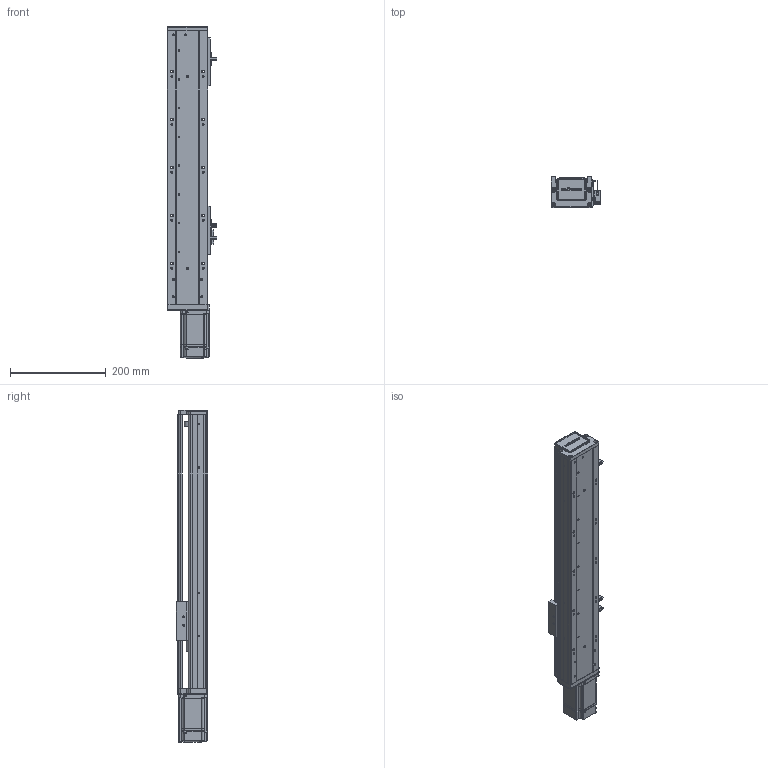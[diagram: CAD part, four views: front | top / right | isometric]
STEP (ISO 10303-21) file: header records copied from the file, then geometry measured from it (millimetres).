
FILE_DESCRIPTION (( 'STEP AP203' ), '1' );
FILE_NAME ('RY80-L1620-300-MK.SLDASM_350.step', '2021-02-20T02:33:06', ( '' ), ( '' ), 'SwSTEP 2.0', 'SolidWorks 2012', '' );
FILE_SCHEMA (( 'CONFIG_CONTROL_DESIGN' ));
Products named in the file (14): RY80-L1620-300-MK.SLDASM_350; RY80綴裔啣; RY80前盖板(100W电机 PCD46 M4); 672嫖萇羲壽假蚾釱; RY80俋离覜茼え; 滅袉蝶18-24; 覜茼ん672; 1; RY80前盖板(200W电机)M4; 滅袉蝶18-10; 侂狟200W萇儂; RY80-300-MK倰第奻裔啣_350; RY80-300-MK倰第菁釱_350; RY80臏賑輸
Assembly tree (16 placements, depth 3):
  RY80-L1620-300-MK.SLDASM_350
    RY80-300-MK倰第菁釱_350
    RY80臏賑輸
    RY80-300-MK倰第奻裔啣_350
    RY80前盖板(200W电机)M4
    侂狟200W萇儂
      1
    滅袉蝶18-10
    672嫖萇羲壽假蚾釱  x2
    覜茼ん672  x3
    RY80俋离覜茼え
    滅袉蝶18-24
    RY80綴裔啣
    RY80前盖板(100W电机 PCD46 M4)
Bounding box: 103.7 x 65 x 692 mm (x, y, z)
Volume: 1312118.9 mm3; surface area: 465425.6 mm2
Topology: 15 solids, 15 shells, 1976 faces, 5434 edges, 3537 vertices
Faces by surface type: plane 1101, cylinder 694, cone 127, bspline 54
Entity records: 61765 total; most frequent: CARTESIAN_POINT 15213, ORIENTED_EDGE 9608, DIRECTION 9031, EDGE_CURVE 4804, VERTEX_POINT 3153, LINE 3013, VECTOR 3013, AXIS2_PLACEMENT_3D 3009
